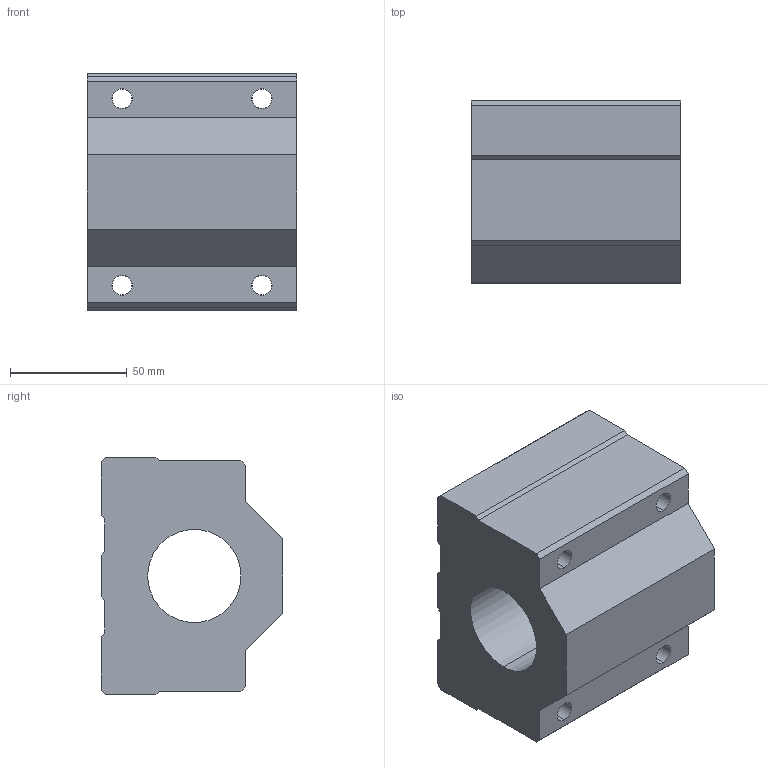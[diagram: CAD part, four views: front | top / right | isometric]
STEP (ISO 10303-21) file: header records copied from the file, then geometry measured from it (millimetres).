
FILE_DESCRIPTION (( 'STEP AP214' ), '1' );
FILE_NAME ('2.7094 Runko SCE40UU.STEP', '2024-06-25T10:54:48', ( '' ), ( '' ), 'SwSTEP 2.0', 'SolidWorks 2024', '' );
FILE_SCHEMA (( 'AUTOMOTIVE_DESIGN' ));
Length unit declared in the file: millimetre
Products named in the file (1): 2.7094 Runko SCE40UU
Bounding box: 90 x 78 x 102 mm (x, y, z)
Volume: 495740 mm3; surface area: 59190.7 mm2
Topology: 1 solids, 1 shells, 56 faces, 142 edges, 92 vertices
Faces by surface type: plane 30, cylinder 18, cone 8
Entity records: 1729 total; most frequent: DIRECTION 300, CARTESIAN_POINT 291, ORIENTED_EDGE 284, EDGE_CURVE 142, AXIS2_PLACEMENT_3D 101, LINE 98, VECTOR 98, VERTEX_POINT 92
